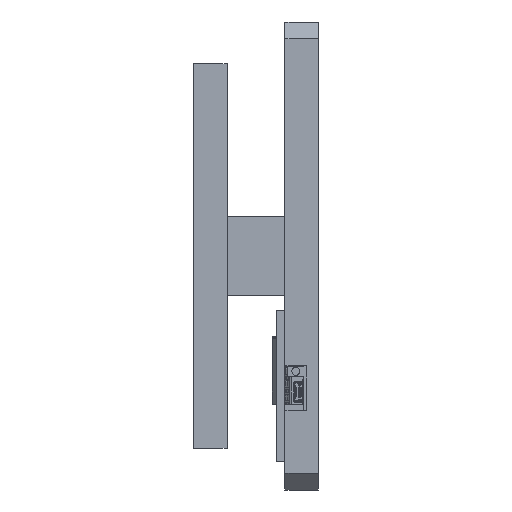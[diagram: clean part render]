
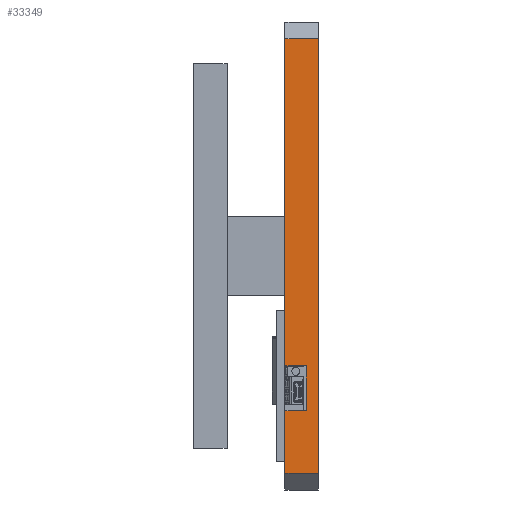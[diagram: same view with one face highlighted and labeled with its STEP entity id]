
A CAD part, left-side view. The second image highlights one B-rep face of the part: STEP entity #33349.
In plain terms, the highlighted planar face has unit normal (-1, 0, 0).
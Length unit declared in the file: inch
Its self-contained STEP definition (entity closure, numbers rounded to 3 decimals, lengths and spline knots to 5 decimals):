
#107 = CARTESIAN_POINT ( 'NONE',  ( -4.5, 0.5, -3.25 ) ) ;
#1150 = LINE ( 'NONE', #6699, #9931 ) ;
#1570 = VECTOR ( 'NONE', #25922, 39.37008 ) ;
#1865 = VERTEX_POINT ( 'NONE', #11949 ) ;
#2083 = EDGE_LOOP ( 'NONE', ( #25552, #33262, #34336, #23290, #10017, #25803, #31977, #20050 ) ) ;
#2360 = CARTESIAN_POINT ( 'NONE',  ( -4.5, 0., -3.25 ) ) ;
#2957 = CARTESIAN_POINT ( 'NONE',  ( -4.5, 0.18, -1.64234 ) ) ;
#4032 = DIRECTION ( 'NONE',  ( 0., 0., 1. ) ) ;
#4926 = CARTESIAN_POINT ( 'NONE',  ( -4.5, 0.5, -3.5 ) ) ;
#5625 = DIRECTION ( 'NONE',  ( 0., -1., 0. ) ) ;
#6699 = CARTESIAN_POINT ( 'NONE',  ( -4.5, 0.18, -2.31164 ) ) ;
#7796 = CARTESIAN_POINT ( 'NONE',  ( -4.5, 0.18, -2.31164 ) ) ;
#7933 = EDGE_CURVE ( 'NONE', #19385, #12510, #34672, .T. ) ;
#8038 = PLANE ( 'NONE',  #12908 ) ;
#8082 = DIRECTION ( 'NONE',  ( 0., 0., 1. ) ) ;
#8155 = CARTESIAN_POINT ( 'NONE',  ( -4.5, 0.5, -3.5 ) ) ;
#9167 = CARTESIAN_POINT ( 'NONE',  ( -4.5, 0., -3.5 ) ) ;
#9383 = VECTOR ( 'NONE', #8082, 39.37008 ) ;
#9931 = VECTOR ( 'NONE', #34553, 39.37008 ) ;
#10017 = ORIENTED_EDGE ( 'NONE', *, *, #22106, .T. ) ;
#11949 = CARTESIAN_POINT ( 'NONE',  ( -4.5, 0.5, -1.64234 ) ) ;
#12510 = VERTEX_POINT ( 'NONE', #2360 ) ;
#12908 = AXIS2_PLACEMENT_3D ( 'NONE', #8155, #16710, #27298 ) ;
#14359 = LINE ( 'NONE', #9167, #30438 ) ;
#15084 = LINE ( 'NONE', #20345, #1570 ) ;
#15383 = EDGE_CURVE ( 'NONE', #19385, #16054, #20699, .T. ) ;
#15466 = VERTEX_POINT ( 'NONE', #25020 ) ;
#16054 = VERTEX_POINT ( 'NONE', #17068 ) ;
#16710 = DIRECTION ( 'NONE',  ( 1., 0., 0. ) ) ;
#17068 = CARTESIAN_POINT ( 'NONE',  ( -4.5, 0.5, -2.31164 ) ) ;
#17578 = CARTESIAN_POINT ( 'NONE',  ( -4.5, 0.5, -3.5 ) ) ;
#17940 = DIRECTION ( 'NONE',  ( 0., 0., 1. ) ) ;
#18455 = VERTEX_POINT ( 'NONE', #25877 ) ;
#18514 = EDGE_CURVE ( 'NONE', #18455, #15466, #32650, .T. ) ;
#19385 = VERTEX_POINT ( 'NONE', #107 ) ;
#19500 = VECTOR ( 'NONE', #24069, 39.37008 ) ;
#19766 = EDGE_CURVE ( 'NONE', #25534, #1865, #20827, .T. ) ;
#20050 = ORIENTED_EDGE ( 'NONE', *, *, #19766, .F. ) ;
#20345 = CARTESIAN_POINT ( 'NONE',  ( -4.5, 0.18, -2.31164 ) ) ;
#20699 = LINE ( 'NONE', #4926, #9383 ) ;
#20763 = LINE ( 'NONE', #17578, #29437 ) ;
#20827 = LINE ( 'NONE', #21283, #19500 ) ;
#20829 = EDGE_CURVE ( 'NONE', #33377, #25534, #15084, .T. ) ;
#21283 = CARTESIAN_POINT ( 'NONE',  ( -4.5, 0.18, -1.64234 ) ) ;
#22106 = EDGE_CURVE ( 'NONE', #12510, #18455, #14359, .T. ) ;
#23239 = EDGE_CURVE ( 'NONE', #33377, #16054, #1150, .T. ) ;
#23290 = ORIENTED_EDGE ( 'NONE', *, *, #7933, .T. ) ;
#24069 = DIRECTION ( 'NONE',  ( 0., 1., 0. ) ) ;
#25020 = CARTESIAN_POINT ( 'NONE',  ( -4.5, 0.5, 3.25 ) ) ;
#25534 = VERTEX_POINT ( 'NONE', #2957 ) ;
#25552 = ORIENTED_EDGE ( 'NONE', *, *, #20829, .F. ) ;
#25803 = ORIENTED_EDGE ( 'NONE', *, *, #18514, .T. ) ;
#25877 = CARTESIAN_POINT ( 'NONE',  ( -4.5, 0., 3.25 ) ) ;
#25922 = DIRECTION ( 'NONE',  ( 0., 0., 1. ) ) ;
#27298 = DIRECTION ( 'NONE',  ( 0., 0., -1. ) ) ;
#28585 = VECTOR ( 'NONE', #5625, 39.37008 ) ;
#29437 = VECTOR ( 'NONE', #4032, 39.37008 ) ;
#29627 = DIRECTION ( 'NONE',  ( 0., 1., 0. ) ) ;
#29987 = EDGE_CURVE ( 'NONE', #1865, #15466, #20763, .T. ) ;
#30438 = VECTOR ( 'NONE', #17940, 39.37008 ) ;
#30573 = CARTESIAN_POINT ( 'NONE',  ( -4.5, 0.5, -3.25 ) ) ;
#31977 = ORIENTED_EDGE ( 'NONE', *, *, #29987, .F. ) ;
#32650 = LINE ( 'NONE', #35202, #36100 ) ;
#33262 = ORIENTED_EDGE ( 'NONE', *, *, #23239, .T. ) ;
#33349 = ADVANCED_FACE ( 'NONE', ( #35337 ), #8038, .F. ) ;
#33377 = VERTEX_POINT ( 'NONE', #7796 ) ;
#34336 = ORIENTED_EDGE ( 'NONE', *, *, #15383, .F. ) ;
#34553 = DIRECTION ( 'NONE',  ( 0., 1., 0. ) ) ;
#34672 = LINE ( 'NONE', #30573, #28585 ) ;
#35202 = CARTESIAN_POINT ( 'NONE',  ( -4.5, 0.5, 3.25 ) ) ;
#35337 = FACE_OUTER_BOUND ( 'NONE', #2083, .T. ) ;
#36100 = VECTOR ( 'NONE', #29627, 39.37008 ) ;
